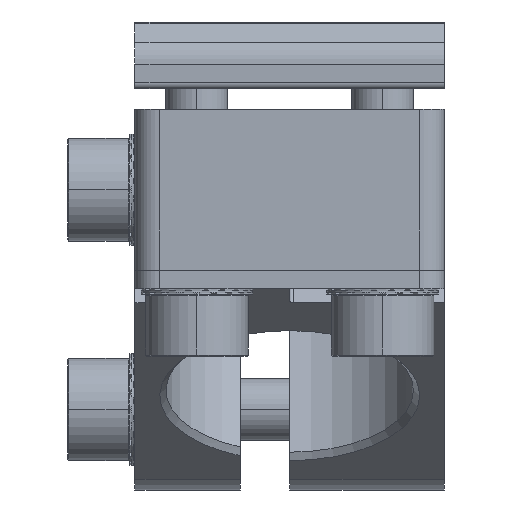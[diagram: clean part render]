
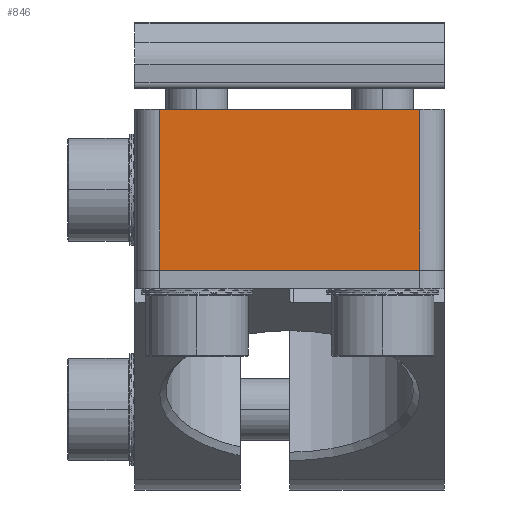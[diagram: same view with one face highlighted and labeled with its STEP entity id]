
A CAD part, left-side view. The second image highlights one B-rep face of the part: STEP entity #846.
In plain terms, the highlighted planar face has unit normal (-1, 0, 0).
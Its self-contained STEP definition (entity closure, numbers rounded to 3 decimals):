
#120 = LINE ( 'NONE', #1441, #4816 ) ;
#306 = LINE ( 'NONE', #693, #7479 ) ;
#693 = CARTESIAN_POINT ( 'NONE',  ( -88.79, 43.555, 5.531 ) ) ;
#766 = VECTOR ( 'NONE', #8352, 1000. ) ;
#846 = ADVANCED_FACE ( 'NONE', ( #9601 ), #5978, .F. ) ;
#907 = CARTESIAN_POINT ( 'NONE',  ( -88.79, 33.055, -0.969 ) ) ;
#1123 = CARTESIAN_POINT ( 'NONE',  ( -88.79, 43.555, -0.969 ) ) ;
#1441 = CARTESIAN_POINT ( 'NONE',  ( -88.79, 22.555, 5.531 ) ) ;
#1534 = ORIENTED_EDGE ( 'NONE', *, *, #6082, .F. ) ;
#1715 = VECTOR ( 'NONE', #8364, 1000. ) ;
#1818 = ORIENTED_EDGE ( 'NONE', *, *, #7423, .T. ) ;
#2403 = DIRECTION ( 'NONE',  ( 1., 0., 0. ) ) ;
#2611 = DIRECTION ( 'NONE',  ( 0., 0., 1. ) ) ;
#3554 = LINE ( 'NONE', #6477, #766 ) ;
#3576 = EDGE_CURVE ( 'NONE', #5504, #11150, #120, .T. ) ;
#3682 = ORIENTED_EDGE ( 'NONE', *, *, #11905, .F. ) ;
#4327 = CARTESIAN_POINT ( 'NONE',  ( -88.79, 22.555, 12.031 ) ) ;
#4816 = VECTOR ( 'NONE', #7069, 1000. ) ;
#5041 = VERTEX_POINT ( 'NONE', #1123 ) ;
#5093 = LINE ( 'NONE', #907, #1715 ) ;
#5246 = EDGE_LOOP ( 'NONE', ( #3682, #1534, #1818, #11650 ) ) ;
#5504 = VERTEX_POINT ( 'NONE', #6453 ) ;
#5978 = PLANE ( 'NONE',  #6043 ) ;
#6043 = AXIS2_PLACEMENT_3D ( 'NONE', #4327, #2403, #11826 ) ;
#6082 = EDGE_CURVE ( 'NONE', #5041, #9608, #306, .T. ) ;
#6453 = CARTESIAN_POINT ( 'NONE',  ( -88.79, 22.555, -0.969 ) ) ;
#6477 = CARTESIAN_POINT ( 'NONE',  ( -88.79, 33.055, 12.031 ) ) ;
#7069 = DIRECTION ( 'NONE',  ( 0., 0., 1. ) ) ;
#7423 = EDGE_CURVE ( 'NONE', #5041, #5504, #5093, .T. ) ;
#7479 = VECTOR ( 'NONE', #2611, 1000. ) ;
#8352 = DIRECTION ( 'NONE',  ( 0., -1., 0. ) ) ;
#8364 = DIRECTION ( 'NONE',  ( 0., -1., 0. ) ) ;
#9333 = CARTESIAN_POINT ( 'NONE',  ( -88.79, 43.555, 12.031 ) ) ;
#9601 = FACE_OUTER_BOUND ( 'NONE', #5246, .T. ) ;
#9608 = VERTEX_POINT ( 'NONE', #9333 ) ;
#10029 = CARTESIAN_POINT ( 'NONE',  ( -88.79, 22.555, 12.031 ) ) ;
#11150 = VERTEX_POINT ( 'NONE', #10029 ) ;
#11650 = ORIENTED_EDGE ( 'NONE', *, *, #3576, .T. ) ;
#11826 = DIRECTION ( 'NONE',  ( 0., 0., -1. ) ) ;
#11905 = EDGE_CURVE ( 'NONE', #9608, #11150, #3554, .T. ) ;
